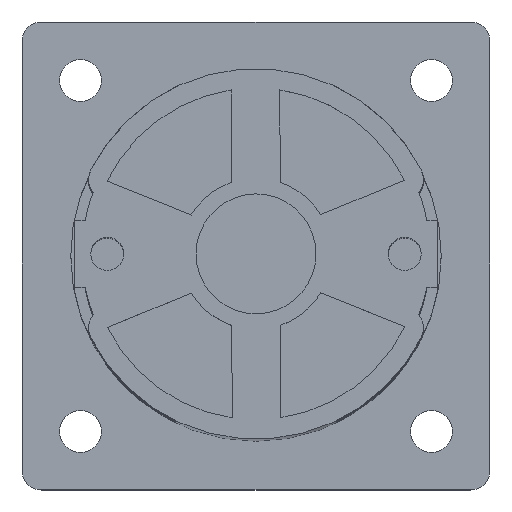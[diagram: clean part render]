
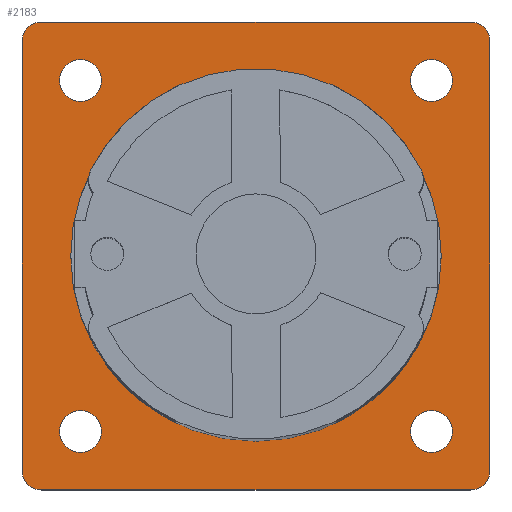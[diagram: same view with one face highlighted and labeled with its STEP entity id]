
A CAD part, top view. The second image highlights one B-rep face of the part: STEP entity #2183.
In plain terms, the highlighted planar face has unit normal (0, 0, 1).
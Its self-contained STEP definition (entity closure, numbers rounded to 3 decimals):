
#529=FACE_BOUND('',#6055,.T.);
#530=FACE_BOUND('',#6056,.T.);
#531=FACE_BOUND('',#6057,.T.);
#532=FACE_BOUND('',#6058,.T.);
#533=FACE_BOUND('',#6059,.T.);
#534=FACE_BOUND('',#6060,.T.);
#954=CIRCLE('',#26268,2.15);
#958=CIRCLE('',#26275,2.15);
#962=CIRCLE('',#26282,2.15);
#966=CIRCLE('',#26289,2.15);
#1011=CIRCLE('',#26379,19.);
#1056=CIRCLE('',#26474,2.);
#1057=CIRCLE('',#26476,2.);
#1058=CIRCLE('',#26478,2.);
#1059=CIRCLE('',#26480,2.);
#2183=ADVANCED_FACE('',(#529,#530,#531,#532,#533,#534),#3566,.F.);
#3566=PLANE('',#26487);
#6055=EDGE_LOOP('',(#8330,#8331,#8332,#8333,#8334,#8335,#8336,#8337));
#6056=EDGE_LOOP('',(#8338));
#6057=EDGE_LOOP('',(#8339));
#6058=EDGE_LOOP('',(#8340));
#6059=EDGE_LOOP('',(#8341));
#6060=EDGE_LOOP('',(#8342));
#8330=ORIENTED_EDGE('',*,*,#18102,.F.);
#8331=ORIENTED_EDGE('',*,*,#18089,.F.);
#8332=ORIENTED_EDGE('',*,*,#18099,.F.);
#8333=ORIENTED_EDGE('',*,*,#18092,.F.);
#8334=ORIENTED_EDGE('',*,*,#18100,.F.);
#8335=ORIENTED_EDGE('',*,*,#18095,.F.);
#8336=ORIENTED_EDGE('',*,*,#18101,.F.);
#8337=ORIENTED_EDGE('',*,*,#18098,.F.);
#8338=ORIENTED_EDGE('',*,*,#17958,.F.);
#8339=ORIENTED_EDGE('',*,*,#17777,.T.);
#8340=ORIENTED_EDGE('',*,*,#17773,.T.);
#8341=ORIENTED_EDGE('',*,*,#17769,.T.);
#8342=ORIENTED_EDGE('',*,*,#17765,.T.);
#15176=VERTEX_POINT('',#35791);
#15180=VERTEX_POINT('',#35802);
#15184=VERTEX_POINT('',#35813);
#15188=VERTEX_POINT('',#35824);
#15365=VERTEX_POINT('',#36183);
#15454=VERTEX_POINT('',#36451);
#15455=VERTEX_POINT('',#36453);
#15456=VERTEX_POINT('',#36457);
#15457=VERTEX_POINT('',#36459);
#15458=VERTEX_POINT('',#36463);
#15459=VERTEX_POINT('',#36465);
#15460=VERTEX_POINT('',#36469);
#15461=VERTEX_POINT('',#36471);
#17765=EDGE_CURVE('',#15176,#15176,#954,.T.);
#17769=EDGE_CURVE('',#15180,#15180,#958,.T.);
#17773=EDGE_CURVE('',#15184,#15184,#962,.T.);
#17777=EDGE_CURVE('',#15188,#15188,#966,.T.);
#17958=EDGE_CURVE('',#15365,#15365,#1011,.T.);
#18089=EDGE_CURVE('',#15455,#15454,#1056,.T.);
#18092=EDGE_CURVE('',#15457,#15456,#1057,.T.);
#18095=EDGE_CURVE('',#15459,#15458,#1058,.T.);
#18098=EDGE_CURVE('',#15461,#15460,#1059,.T.);
#18099=EDGE_CURVE('',#15456,#15455,#21632,.T.);
#18100=EDGE_CURVE('',#15458,#15457,#21633,.T.);
#18101=EDGE_CURVE('',#15460,#15459,#21634,.T.);
#18102=EDGE_CURVE('',#15454,#15461,#21635,.T.);
#21632=LINE('',#36474,#24045);
#21633=LINE('',#36476,#24046);
#21634=LINE('',#36478,#24047);
#21635=LINE('',#36480,#24048);
#24045=VECTOR('',#29408,1.);
#24046=VECTOR('',#29411,1.);
#24047=VECTOR('',#29414,1.);
#24048=VECTOR('',#29417,1.);
#26268=AXIS2_PLACEMENT_3D('',#35790,#28796,#28797);
#26275=AXIS2_PLACEMENT_3D('',#35801,#28810,#28811);
#26282=AXIS2_PLACEMENT_3D('',#35812,#28824,#28825);
#26289=AXIS2_PLACEMENT_3D('',#35823,#28838,#28839);
#26379=AXIS2_PLACEMENT_3D('',#36182,#29110,#29111);
#26474=AXIS2_PLACEMENT_3D('',#36454,#29386,#29387);
#26476=AXIS2_PLACEMENT_3D('',#36460,#29392,#29393);
#26478=AXIS2_PLACEMENT_3D('',#36466,#29398,#29399);
#26480=AXIS2_PLACEMENT_3D('',#36472,#29404,#29405);
#26487=AXIS2_PLACEMENT_3D('',#36483,#29422,#29423);
#28796=DIRECTION('',(0.,0.,-1.));
#28797=DIRECTION('',(-1.,0.,0.));
#28810=DIRECTION('',(0.,0.,-1.));
#28811=DIRECTION('',(-1.,0.,0.));
#28824=DIRECTION('',(0.,0.,-1.));
#28825=DIRECTION('',(-1.,0.,0.));
#28838=DIRECTION('',(0.,0.,-1.));
#28839=DIRECTION('',(-1.,0.,0.));
#29110=DIRECTION('',(0.,0.,1.));
#29111=DIRECTION('',(-1.,0.,0.));
#29386=DIRECTION('',(0.,0.,-1.));
#29387=DIRECTION('',(1.,0.,0.));
#29392=DIRECTION('',(0.,0.,-1.));
#29393=DIRECTION('',(1.,0.,0.));
#29398=DIRECTION('',(0.,0.,-1.));
#29399=DIRECTION('',(1.,0.,0.));
#29404=DIRECTION('',(0.,0.,-1.));
#29405=DIRECTION('',(1.,0.,0.));
#29408=DIRECTION('',(0.,-1.,0.));
#29411=DIRECTION('',(1.,0.,0.));
#29414=DIRECTION('',(0.,1.,0.));
#29417=DIRECTION('',(-1.,0.,0.));
#29422=DIRECTION('',(0.,0.,-1.));
#29423=DIRECTION('',(-1.,0.,0.));
#35790=CARTESIAN_POINT('',(18.,-18.,2.5));
#35791=CARTESIAN_POINT('',(15.85,-18.,2.5));
#35801=CARTESIAN_POINT('',(18.,18.,2.5));
#35802=CARTESIAN_POINT('',(15.85,18.,2.5));
#35812=CARTESIAN_POINT('',(-18.,18.,2.5));
#35813=CARTESIAN_POINT('',(-20.15,18.,2.5));
#35823=CARTESIAN_POINT('',(-18.,-18.,2.5));
#35824=CARTESIAN_POINT('',(-20.15,-18.,2.5));
#36182=CARTESIAN_POINT('',(0.,0.,2.5));
#36183=CARTESIAN_POINT('',(-19.,0.,2.5));
#36451=CARTESIAN_POINT('',(22.,-24.,2.5));
#36453=CARTESIAN_POINT('',(24.,-22.,2.5));
#36454=CARTESIAN_POINT('',(22.,-22.,2.5));
#36457=CARTESIAN_POINT('',(24.,22.,2.5));
#36459=CARTESIAN_POINT('',(22.,24.,2.5));
#36460=CARTESIAN_POINT('',(22.,22.,2.5));
#36463=CARTESIAN_POINT('',(-22.,24.,2.5));
#36465=CARTESIAN_POINT('',(-24.,22.,2.5));
#36466=CARTESIAN_POINT('',(-22.,22.,2.5));
#36469=CARTESIAN_POINT('',(-24.,-22.,2.5));
#36471=CARTESIAN_POINT('',(-22.,-24.,2.5));
#36472=CARTESIAN_POINT('',(-22.,-22.,2.5));
#36474=CARTESIAN_POINT('',(24.,22.,2.5));
#36476=CARTESIAN_POINT('',(-22.,24.,2.5));
#36478=CARTESIAN_POINT('',(-24.,-22.,2.5));
#36480=CARTESIAN_POINT('',(22.,-24.,2.5));
#36483=CARTESIAN_POINT('',(-22.,-22.,2.5));
